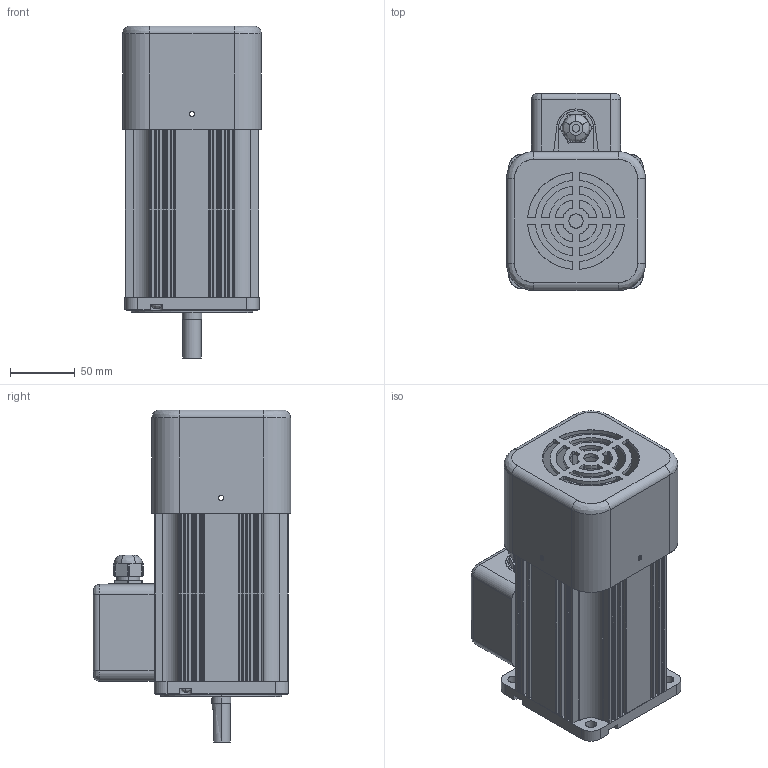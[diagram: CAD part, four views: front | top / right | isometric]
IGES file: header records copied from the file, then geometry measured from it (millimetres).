
Start section: SolidWorks IGES file using analytic representation for surfaces
Global section: file name: C:\Users\dkmｿｬｱｸｽﾇ\Desktop\ｱ箙ｯｱ秉10BDD6-400F-T.IGS,1; native system: 5HSolidWorks 2011; preprocessor: SolidWorks 2011; author: dkmｿｬｱｸｽﾇ; date: 160329.094141; units: millimetre
Bounding box: 107.4 x 152.7 x 257 mm (x, y, z)
Surface area: 210855.6 mm2 (no closed solid volume)
Topology: 0 solids, 0 shells, 562 faces, 7624 edges, 7624 vertices
Faces by surface type: revolution 286, bspline 276
